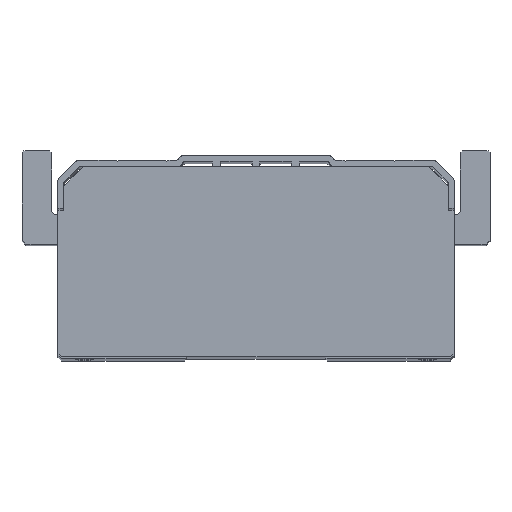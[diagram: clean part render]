
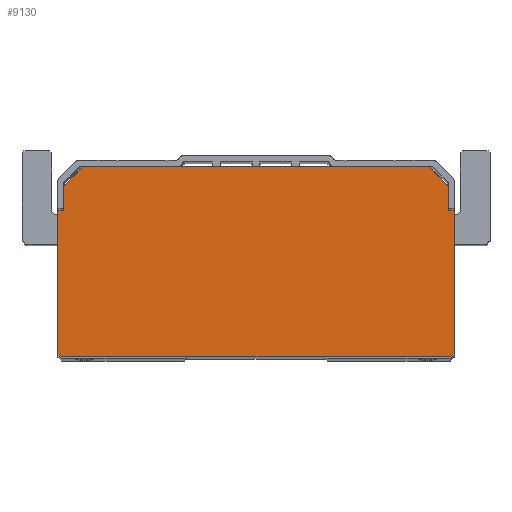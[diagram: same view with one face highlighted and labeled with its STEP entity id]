
A CAD part, top view. The second image highlights one B-rep face of the part: STEP entity #9130.
In plain terms, the highlighted planar face has unit normal (0, 0, 1).
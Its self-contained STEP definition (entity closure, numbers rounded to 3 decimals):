
#187 = VERTEX_POINT ( 'NONE', #14348 ) ;
#574 = CARTESIAN_POINT ( 'NONE',  ( 97., 74., 345. ) ) ;
#614 = VERTEX_POINT ( 'NONE', #9702 ) ;
#715 = VERTEX_POINT ( 'NONE', #8793 ) ;
#732 = VERTEX_POINT ( 'NONE', #2009 ) ;
#1409 = LINE ( 'NONE', #12332, #7087 ) ;
#1429 = DIRECTION ( 'NONE',  ( 0., 1., 0. ) ) ;
#1927 = EDGE_CURVE ( 'NONE', #5028, #715, #3257, .T. ) ;
#2009 = CARTESIAN_POINT ( 'NONE',  ( -100., 74., 345. ) ) ;
#2331 = ORIENTED_EDGE ( 'NONE', *, *, #5459, .T. ) ;
#2456 = EDGE_CURVE ( 'NONE', #12738, #614, #12418, .T. ) ;
#2583 = CARTESIAN_POINT ( 'NONE',  ( -97., 86., 345. ) ) ;
#2645 = CARTESIAN_POINT ( 'NONE',  ( -100., 74., 345. ) ) ;
#2693 = DIRECTION ( 'NONE',  ( 1., 0., 0. ) ) ;
#2870 = CARTESIAN_POINT ( 'NONE',  ( 97., 86., 345. ) ) ;
#2919 = VERTEX_POINT ( 'NONE', #13135 ) ;
#2955 = EDGE_CURVE ( 'NONE', #715, #732, #7064, .T. ) ;
#3257 = LINE ( 'NONE', #11232, #9262 ) ;
#3569 = CARTESIAN_POINT ( 'NONE',  ( 100., 74., 345. ) ) ;
#3735 = DIRECTION ( 'NONE',  ( -0.707, -0.707, 0. ) ) ;
#3981 = LINE ( 'NONE', #574, #12635 ) ;
#4413 = ORIENTED_EDGE ( 'NONE', *, *, #14607, .T. ) ;
#4564 = CARTESIAN_POINT ( 'NONE',  ( 97., 86., 345. ) ) ;
#4712 = DIRECTION ( 'NONE',  ( 0., 1., 0. ) ) ;
#4978 = VECTOR ( 'NONE', #10565, 1000. ) ;
#5009 = ORIENTED_EDGE ( 'NONE', *, *, #2955, .T. ) ;
#5015 = EDGE_CURVE ( 'NONE', #614, #11482, #5648, .T. ) ;
#5028 = VERTEX_POINT ( 'NONE', #11734 ) ;
#5087 = ORIENTED_EDGE ( 'NONE', *, *, #9854, .T. ) ;
#5153 = FACE_OUTER_BOUND ( 'NONE', #8111, .T. ) ;
#5192 = DIRECTION ( 'NONE',  ( 1., 0., 0. ) ) ;
#5240 = DIRECTION ( 'NONE',  ( 0.707, 0.707, 0. ) ) ;
#5359 = DIRECTION ( 'NONE',  ( -1., 0., 0. ) ) ;
#5459 = EDGE_CURVE ( 'NONE', #13645, #2919, #8615, .T. ) ;
#5648 = LINE ( 'NONE', #10595, #8626 ) ;
#5864 = ORIENTED_EDGE ( 'NONE', *, *, #11719, .T. ) ;
#6235 = DIRECTION ( 'NONE',  ( -1., 0., 0. ) ) ;
#6348 = EDGE_CURVE ( 'NONE', #187, #10866, #3981, .T. ) ;
#6384 = VECTOR ( 'NONE', #3735, 1000. ) ;
#6391 = DIRECTION ( 'NONE',  ( 0.707, -0.707, 0. ) ) ;
#6667 = CARTESIAN_POINT ( 'NONE',  ( 98., 0., 345. ) ) ;
#6719 = DIRECTION ( 'NONE',  ( 0., -1., 0. ) ) ;
#6766 = LINE ( 'NONE', #2583, #6384 ) ;
#6879 = ORIENTED_EDGE ( 'NONE', *, *, #1927, .T. ) ;
#7064 = LINE ( 'NONE', #8710, #12694 ) ;
#7087 = VECTOR ( 'NONE', #5240, 1000. ) ;
#7352 = ORIENTED_EDGE ( 'NONE', *, *, #11626, .T. ) ;
#7400 = LINE ( 'NONE', #3569, #13414 ) ;
#7499 = EDGE_CURVE ( 'NONE', #9650, #13645, #11033, .T. ) ;
#7671 = VECTOR ( 'NONE', #6391, 1000. ) ;
#7704 = VECTOR ( 'NONE', #10177, 1000. ) ;
#8111 = EDGE_LOOP ( 'NONE', ( #5864, #12667, #2331, #14199, #6879, #5009, #4413, #9890, #10233, #5087, #7352, #14540 ) ) ;
#8280 = CARTESIAN_POINT ( 'NONE',  ( 97., 74., 345. ) ) ;
#8547 = PLANE ( 'NONE',  #11326 ) ;
#8615 = LINE ( 'NONE', #10453, #14265 ) ;
#8626 = VECTOR ( 'NONE', #2693, 1000. ) ;
#8710 = CARTESIAN_POINT ( 'NONE',  ( -100., 74., 345. ) ) ;
#8793 = CARTESIAN_POINT ( 'NONE',  ( -97., 74., 345. ) ) ;
#8894 = CARTESIAN_POINT ( 'NONE',  ( -100., 2., 345. ) ) ;
#9130 = ADVANCED_FACE ( 'NONE', ( #5153 ), #8547, .T. ) ;
#9262 = VECTOR ( 'NONE', #6719, 1000. ) ;
#9379 = CARTESIAN_POINT ( 'NONE',  ( 87., 96., 345. ) ) ;
#9484 = EDGE_CURVE ( 'NONE', #2919, #5028, #6766, .T. ) ;
#9650 = VERTEX_POINT ( 'NONE', #2870 ) ;
#9702 = CARTESIAN_POINT ( 'NONE',  ( -98., 0., 345. ) ) ;
#9854 = EDGE_CURVE ( 'NONE', #11482, #11256, #1409, .T. ) ;
#9890 = ORIENTED_EDGE ( 'NONE', *, *, #2456, .T. ) ;
#10177 = DIRECTION ( 'NONE',  ( -0.707, 0.707, 0. ) ) ;
#10233 = ORIENTED_EDGE ( 'NONE', *, *, #5015, .T. ) ;
#10453 = CARTESIAN_POINT ( 'NONE',  ( -87., 96., 345. ) ) ;
#10463 = CARTESIAN_POINT ( 'NONE',  ( 97., 86., 345. ) ) ;
#10565 = DIRECTION ( 'NONE',  ( 0., -1., 0. ) ) ;
#10595 = CARTESIAN_POINT ( 'NONE',  ( -98., 0., 345. ) ) ;
#10653 = CARTESIAN_POINT ( 'NONE',  ( 100., 2., 345. ) ) ;
#10789 = CARTESIAN_POINT ( 'NONE',  ( 97., 74., 345. ) ) ;
#10866 = VERTEX_POINT ( 'NONE', #8280 ) ;
#10993 = LINE ( 'NONE', #2645, #4978 ) ;
#11033 = LINE ( 'NONE', #4564, #7704 ) ;
#11232 = CARTESIAN_POINT ( 'NONE',  ( -97., 86., 345. ) ) ;
#11256 = VERTEX_POINT ( 'NONE', #10653 ) ;
#11326 = AXIS2_PLACEMENT_3D ( 'NONE', #10789, #11940, #5192 ) ;
#11482 = VERTEX_POINT ( 'NONE', #6667 ) ;
#11596 = DIRECTION ( 'NONE',  ( -1., 0., 0. ) ) ;
#11619 = VECTOR ( 'NONE', #1429, 1000. ) ;
#11626 = EDGE_CURVE ( 'NONE', #11256, #187, #7400, .T. ) ;
#11719 = EDGE_CURVE ( 'NONE', #10866, #9650, #14659, .T. ) ;
#11734 = CARTESIAN_POINT ( 'NONE',  ( -97., 86., 345. ) ) ;
#11940 = DIRECTION ( 'NONE',  ( 0., 0., 1. ) ) ;
#11999 = CARTESIAN_POINT ( 'NONE',  ( -100., 2., 345. ) ) ;
#12332 = CARTESIAN_POINT ( 'NONE',  ( 100., 2., 345. ) ) ;
#12418 = LINE ( 'NONE', #11999, #7671 ) ;
#12635 = VECTOR ( 'NONE', #6235, 1000. ) ;
#12667 = ORIENTED_EDGE ( 'NONE', *, *, #7499, .T. ) ;
#12694 = VECTOR ( 'NONE', #5359, 1000. ) ;
#12738 = VERTEX_POINT ( 'NONE', #8894 ) ;
#13135 = CARTESIAN_POINT ( 'NONE',  ( -87., 96., 345. ) ) ;
#13414 = VECTOR ( 'NONE', #4712, 1000. ) ;
#13645 = VERTEX_POINT ( 'NONE', #9379 ) ;
#14199 = ORIENTED_EDGE ( 'NONE', *, *, #9484, .T. ) ;
#14265 = VECTOR ( 'NONE', #11596, 1000. ) ;
#14348 = CARTESIAN_POINT ( 'NONE',  ( 100., 74., 345. ) ) ;
#14540 = ORIENTED_EDGE ( 'NONE', *, *, #6348, .T. ) ;
#14607 = EDGE_CURVE ( 'NONE', #732, #12738, #10993, .T. ) ;
#14659 = LINE ( 'NONE', #10463, #11619 ) ;
